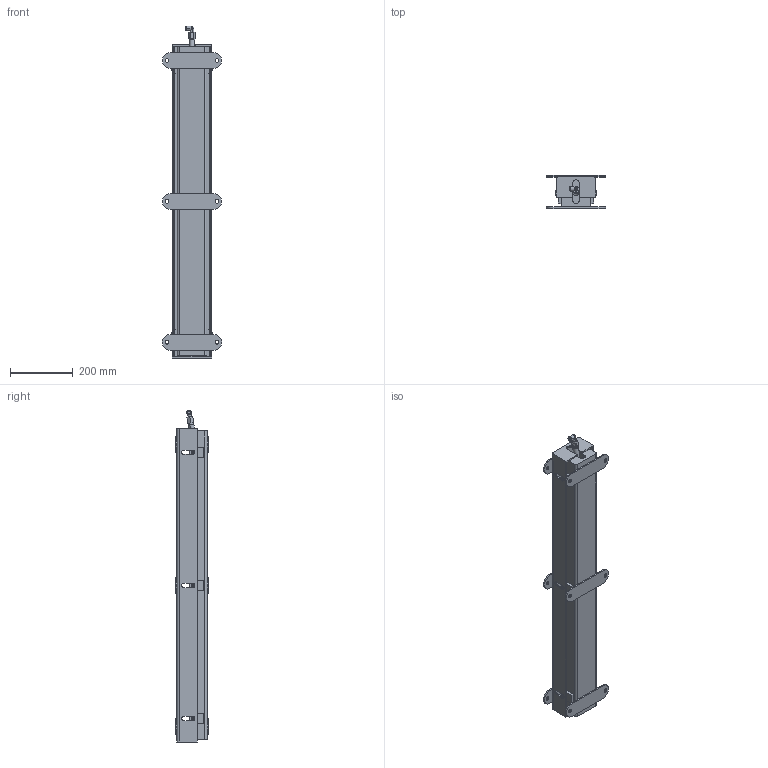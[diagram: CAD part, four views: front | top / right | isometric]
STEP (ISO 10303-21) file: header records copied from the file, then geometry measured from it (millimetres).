
FILE_DESCRIPTION (( 'STEP AP214' ), '1' );
FILE_NAME ('ALB-SB-1000_H.STEP', '2013-03-15T07:13:03', ( '' ), ( '' ), '', '', '' );
FILE_SCHEMA (( 'AUTOMOTIVE_DESIGN' ));
Length unit declared in the file: millimetre
Products named in the file (6): KQ2LF10_03A; SGGD10A_50; CB10_12; frame1; frame2; ALB-SB-1000_H
Assembly tree (10 placements, depth 2):
  ALB-SB-1000_H
    frame2
    frame1
    CB10_12  x6
    SGGD10A_50
    KQ2LF10_03A
Bounding box: 190 x 105 x 1060 mm (x, y, z)
Volume: 2349110.1 mm3; surface area: 1080691.6 mm2
Topology: 22 solids, 22 shells, 397 faces, 942 edges, 591 vertices
Faces by surface type: plane 203, cylinder 145, cone 47, sphere 2
Entity records: 8878 total; most frequent: DIRECTION 1500, CARTESIAN_POINT 1432, ORIENTED_EDGE 1332, EDGE_CURVE 666, AXIS2_PLACEMENT_3D 554, VERTEX_POINT 436, LINE 392, VECTOR 392
